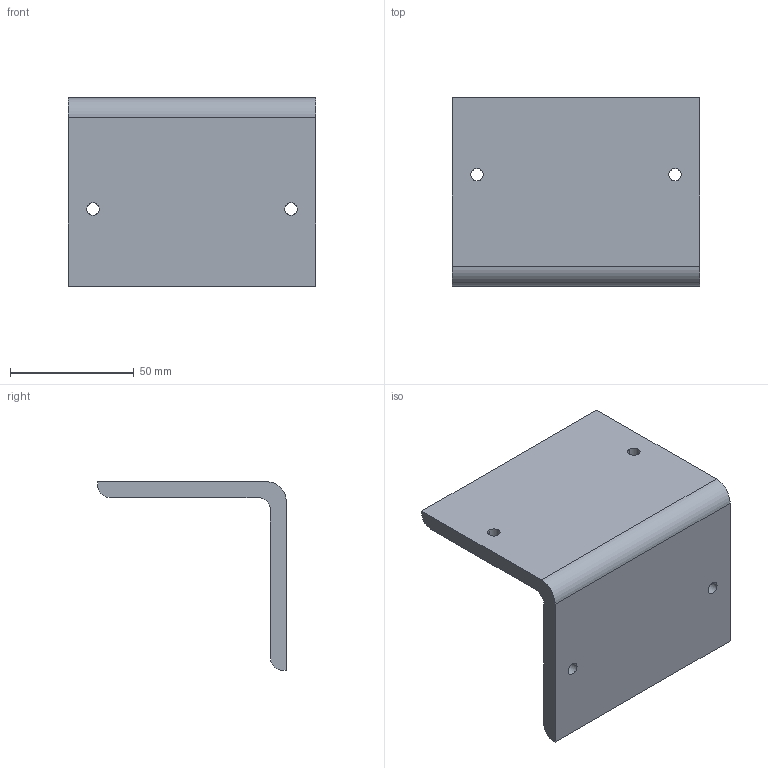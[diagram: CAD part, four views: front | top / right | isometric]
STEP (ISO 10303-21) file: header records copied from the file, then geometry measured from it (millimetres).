
FILE_DESCRIPTION (( 'STEP AP203' ), '1' );
FILE_NAME ('RAILEX STANDARD RXR-FKPCJ.STEP', '2021-06-17T10:55:04', ( '' ), ( '' ), 'SwSTEP 2.0', 'SolidWorks 2020', '' );
FILE_SCHEMA (( 'CONFIG_CONTROL_DESIGN' ));
Length unit declared in the file: millimetre
Products named in the file (1): RAILEX STANDARD RXR-FKPCJ
Bounding box: 100 x 76.2 x 76.2 mm (x, y, z)
Volume: 91027.4 mm3; surface area: 31568.5 mm2
Topology: 1 solids, 1 shells, 20 faces, 54 edges, 36 vertices
Faces by surface type: cylinder 12, plane 8
Entity records: 735 total; most frequent: DIRECTION 120, CARTESIAN_POINT 111, ORIENTED_EDGE 108, EDGE_CURVE 54, AXIS2_PLACEMENT_3D 45, VERTEX_POINT 36, VECTOR 30, LINE 30
